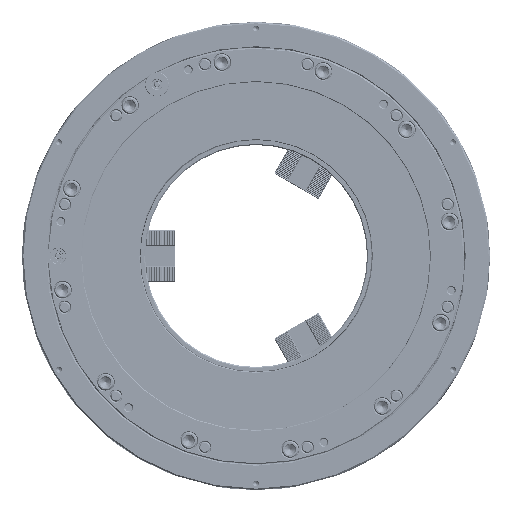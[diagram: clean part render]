
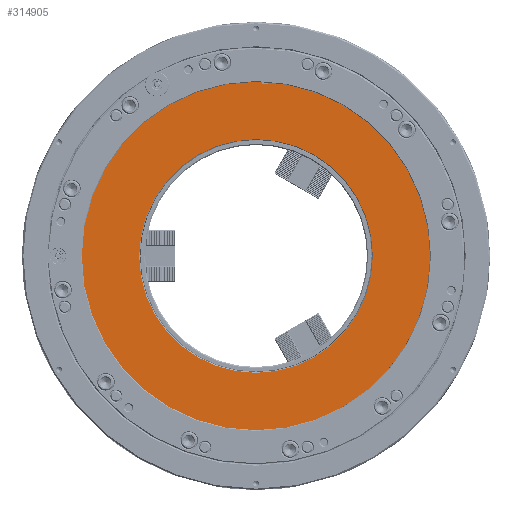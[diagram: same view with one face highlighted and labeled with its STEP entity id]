
A CAD part, left-side view. The second image highlights one B-rep face of the part: STEP entity #314905.
In plain terms, the highlighted planar face has unit normal (-1, 0, 0).
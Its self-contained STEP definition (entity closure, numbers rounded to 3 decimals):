
#10914 = CARTESIAN_POINT ( 'NONE',  ( -275., -8.222, 252.416 ) ) ;
#23070 = EDGE_LOOP ( 'NONE', ( #136696, #217762 ) ) ;
#23634 = CARTESIAN_POINT ( 'NONE',  ( -275., 0., 0. ) ) ;
#39336 = CARTESIAN_POINT ( 'NONE',  ( -275., -4.525, -9.199 ) ) ;
#43359 = PLANE ( 'NONE',  #266798 ) ;
#49482 = VECTOR ( 'NONE', #291641, 1000. ) ;
#52409 = CARTESIAN_POINT ( 'NONE',  ( -275., 5.462, -8.676 ) ) ;
#61367 = EDGE_CURVE ( 'NONE', #317161, #269714, #229578, .T. ) ;
#63919 = FACE_OUTER_BOUND ( 'NONE', #319909, .T. ) ;
#64893 = DIRECTION ( 'NONE',  ( 0., -0.052, 0.999 ) ) ;
#65702 = DIRECTION ( 'NONE',  ( 0., 0., -1. ) ) ;
#66006 = VERTEX_POINT ( 'NONE', #224054 ) ;
#66481 = DIRECTION ( 'NONE',  ( 0., 0., -1. ) ) ;
#67268 = FACE_BOUND ( 'NONE', #23070, .T. ) ;
#72090 = CARTESIAN_POINT ( 'NONE',  ( -275., 0., 0. ) ) ;
#75164 = EDGE_CURVE ( 'NONE', #317518, #205407, #242789, .T. ) ;
#81816 = VECTOR ( 'NONE', #64893, 1000. ) ;
#100576 = ORIENTED_EDGE ( 'NONE', *, *, #151922, .F. ) ;
#103292 = CARTESIAN_POINT ( 'NONE',  ( -275., 0., 255. ) ) ;
#104698 = ORIENTED_EDGE ( 'NONE', *, *, #75164, .F. ) ;
#125819 = DIRECTION ( 'NONE',  ( 1., 0., 0. ) ) ;
#126267 = AXIS2_PLACEMENT_3D ( 'NONE', #23634, #125819, #156362 ) ;
#136696 = ORIENTED_EDGE ( 'NONE', *, *, #252975, .T. ) ;
#151612 = EDGE_CURVE ( 'NONE', #282717, #66006, #298207, .T. ) ;
#151922 = EDGE_CURVE ( 'NONE', #269714, #282717, #237154, .T. ) ;
#152905 = CIRCLE ( 'NONE', #239965, 171. ) ;
#153698 = DIRECTION ( 'NONE',  ( 0., 0., -1. ) ) ;
#156362 = DIRECTION ( 'NONE',  ( 0., 0., -1. ) ) ;
#159978 = EDGE_CURVE ( 'NONE', #205407, #317161, #285415, .T. ) ;
#163855 = CARTESIAN_POINT ( 'NONE',  ( -275., 157.317, 261.091 ) ) ;
#164492 = CARTESIAN_POINT ( 'NONE',  ( -275., 0., 0. ) ) ;
#166959 = DIRECTION ( 'NONE',  ( 1., 0., 0. ) ) ;
#167757 = DIRECTION ( 'NONE',  ( -1., 0., 0. ) ) ;
#171816 = ORIENTED_EDGE ( 'NONE', *, *, #151612, .F. ) ;
#175351 = CIRCLE ( 'NONE', #126267, 171. ) ;
#190197 = CARTESIAN_POINT ( 'NONE',  ( -275., 0., 171. ) ) ;
#190254 = CARTESIAN_POINT ( 'NONE',  ( -275., 0., -255. ) ) ;
#195068 = DIRECTION ( 'NONE',  ( 1., 0., 0. ) ) ;
#195434 = ORIENTED_EDGE ( 'NONE', *, *, #61367, .F. ) ;
#203942 = ORIENTED_EDGE ( 'NONE', *, *, #328791, .F. ) ;
#205407 = VERTEX_POINT ( 'NONE', #103292 ) ;
#210786 = AXIS2_PLACEMENT_3D ( 'NONE', #246965, #166959, #66481 ) ;
#213148 = DIRECTION ( 'NONE',  ( 0., 0., -1. ) ) ;
#217762 = ORIENTED_EDGE ( 'NONE', *, *, #334094, .T. ) ;
#224054 = CARTESIAN_POINT ( 'NONE',  ( -275., -18.336, 254.34 ) ) ;
#227068 = CIRCLE ( 'NONE', #210786, 255. ) ;
#229578 = LINE ( 'NONE', #52409, #293796 ) ;
#237006 = CARTESIAN_POINT ( 'NONE',  ( -275., 0., 0. ) ) ;
#237154 = LINE ( 'NONE', #163855, #49482 ) ;
#239965 = AXIS2_PLACEMENT_3D ( 'NONE', #164492, #195068, #65702 ) ;
#242789 = CIRCLE ( 'NONE', #259291, 255. ) ;
#246965 = CARTESIAN_POINT ( 'NONE',  ( -275., 0., 0. ) ) ;
#247278 = AXIS2_PLACEMENT_3D ( 'NONE', #237006, #315358, #213148 ) ;
#252975 = EDGE_CURVE ( 'NONE', #316455, #310853, #175351, .T. ) ;
#259291 = AXIS2_PLACEMENT_3D ( 'NONE', #72090, #278132, #153698 ) ;
#260157 = DIRECTION ( 'NONE',  ( 0., 0.052, -0.999 ) ) ;
#266798 = AXIS2_PLACEMENT_3D ( 'NONE', #303905, #167757, #324419 ) ;
#269714 = VERTEX_POINT ( 'NONE', #10914 ) ;
#278132 = DIRECTION ( 'NONE',  ( 1., 0., 0. ) ) ;
#282717 = VERTEX_POINT ( 'NONE', #329541 ) ;
#285415 = CIRCLE ( 'NONE', #247278, 255. ) ;
#289414 = CARTESIAN_POINT ( 'NONE',  ( -275., 0., -171. ) ) ;
#291641 = DIRECTION ( 'NONE',  ( 0., -0.999, -0.052 ) ) ;
#293796 = VECTOR ( 'NONE', #260157, 1000. ) ;
#298207 = LINE ( 'NONE', #39336, #81816 ) ;
#303905 = CARTESIAN_POINT ( 'NONE',  ( -275., 171., 0. ) ) ;
#310853 = VERTEX_POINT ( 'NONE', #289414 ) ;
#314905 = ADVANCED_FACE ( 'NONE', ( #63919, #67268 ), #43359, .T. ) ;
#315358 = DIRECTION ( 'NONE',  ( 1., 0., 0. ) ) ;
#316455 = VERTEX_POINT ( 'NONE', #190197 ) ;
#317161 = VERTEX_POINT ( 'NONE', #322192 ) ;
#317518 = VERTEX_POINT ( 'NONE', #190254 ) ;
#319909 = EDGE_LOOP ( 'NONE', ( #171816, #100576, #195434, #327893, #104698, #203942 ) ) ;
#322192 = CARTESIAN_POINT ( 'NONE',  ( -275., -8.35, 254.863 ) ) ;
#324419 = DIRECTION ( 'NONE',  ( 0., 0., 1. ) ) ;
#327893 = ORIENTED_EDGE ( 'NONE', *, *, #159978, .F. ) ;
#328791 = EDGE_CURVE ( 'NONE', #66006, #317518, #227068, .T. ) ;
#329541 = CARTESIAN_POINT ( 'NONE',  ( -275., -18.208, 251.892 ) ) ;
#334094 = EDGE_CURVE ( 'NONE', #310853, #316455, #152905, .T. ) ;
